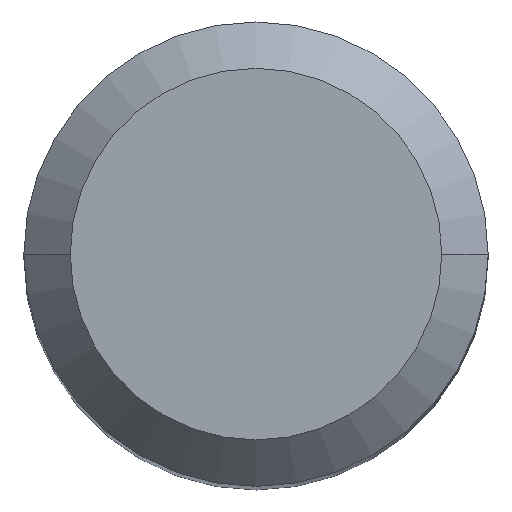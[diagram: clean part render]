
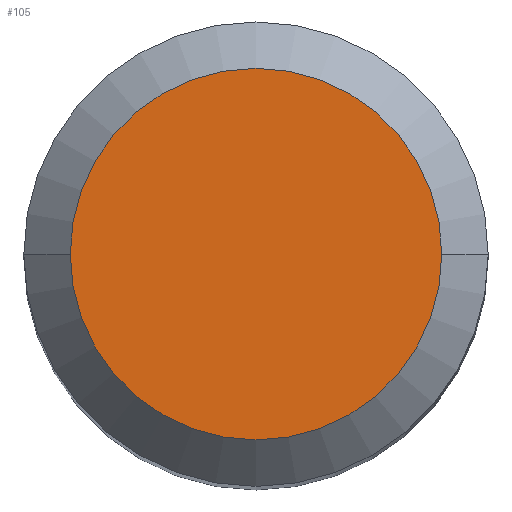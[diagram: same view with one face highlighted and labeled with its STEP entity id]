
A CAD part, top view. The second image highlights one B-rep face of the part: STEP entity #105.
In plain terms, the highlighted planar face has unit normal (0, 0, 1).
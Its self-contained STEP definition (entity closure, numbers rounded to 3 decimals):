
#15 = DIRECTION ( 'NONE',  ( 0., 0., -1. ) ) ;
#19 = ORIENTED_EDGE ( 'NONE', *, *, #272, .F. ) ;
#36 = DIRECTION ( 'NONE',  ( 0., 0., 1. ) ) ;
#105 = ADVANCED_FACE ( 'NONE', ( #398 ), #108, .T. ) ;
#108 = PLANE ( 'NONE',  #198 ) ;
#113 = EDGE_CURVE ( 'NONE', #136, #133, #126, .T. ) ;
#120 = CARTESIAN_POINT ( 'NONE',  ( 0., 0., 0. ) ) ;
#126 = CIRCLE ( 'NONE', #351, 3.2 ) ;
#133 = VERTEX_POINT ( 'NONE', #237 ) ;
#136 = VERTEX_POINT ( 'NONE', #352 ) ;
#147 = AXIS2_PLACEMENT_3D ( 'NONE', #120, #15, #290 ) ;
#162 = DIRECTION ( 'NONE',  ( 0., 0., -1. ) ) ;
#198 = AXIS2_PLACEMENT_3D ( 'NONE', #348, #36, #315 ) ;
#237 = CARTESIAN_POINT ( 'NONE',  ( -3.2, 0., 0. ) ) ;
#272 = EDGE_CURVE ( 'NONE', #133, #136, #456, .T. ) ;
#290 = DIRECTION ( 'NONE',  ( -1., 0., 0. ) ) ;
#298 = EDGE_LOOP ( 'NONE', ( #19, #410 ) ) ;
#315 = DIRECTION ( 'NONE',  ( 1., 0., 0. ) ) ;
#348 = CARTESIAN_POINT ( 'NONE',  ( 0., 3.2, 0. ) ) ;
#351 = AXIS2_PLACEMENT_3D ( 'NONE', #424, #162, #390 ) ;
#352 = CARTESIAN_POINT ( 'NONE',  ( 3.2, 0., 0. ) ) ;
#390 = DIRECTION ( 'NONE',  ( -1., 0., 0. ) ) ;
#398 = FACE_OUTER_BOUND ( 'NONE', #298, .T. ) ;
#410 = ORIENTED_EDGE ( 'NONE', *, *, #113, .F. ) ;
#424 = CARTESIAN_POINT ( 'NONE',  ( 0., 0., 0. ) ) ;
#456 = CIRCLE ( 'NONE', #147, 3.2 ) ;
